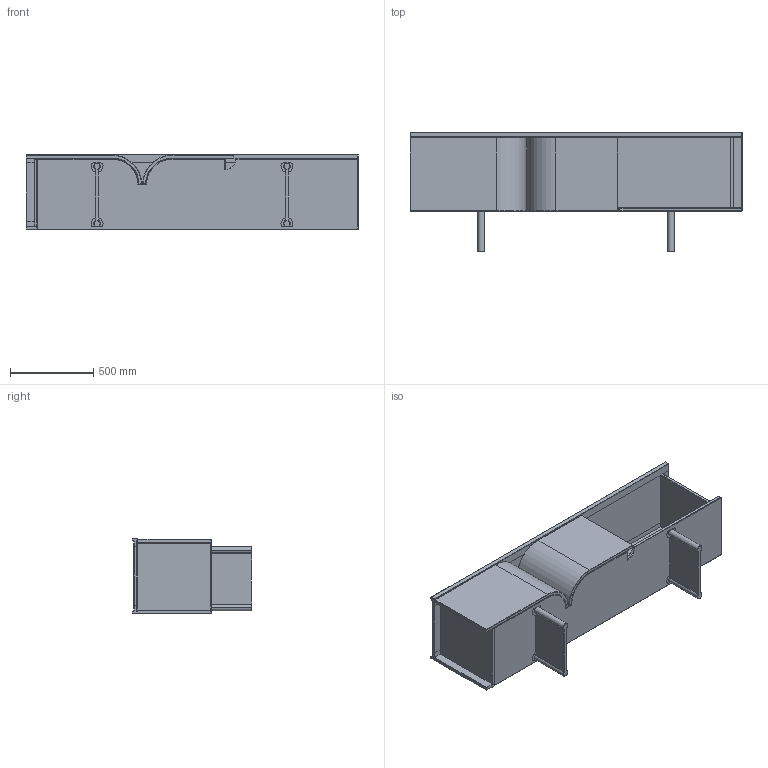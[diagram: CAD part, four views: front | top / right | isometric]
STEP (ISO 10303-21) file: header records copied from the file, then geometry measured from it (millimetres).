
FILE_DESCRIPTION (( 'STEP AP203' ), '1' );
FILE_NAME ('FLESSO SIDEBOARD 200.STEP', '2024-08-09T06:49:09', ( '' ), ( '' ), 'SwSTEP 2.0', 'SolidWorks 2024', '' );
FILE_SCHEMA (( 'CONFIG_CONTROL_DESIGN' ));
Length unit declared in the file: millimetre
Products named in the file (2): Group1^FLESSO SIDEBOARD 200; FLESSO SIDEBOARD 200
Assembly tree (1 placements, depth 2):
  FLESSO SIDEBOARD 200
    Group1^FLESSO SIDEBOARD 200
Bounding box: 2000 x 720 x 450 mm (x, y, z)
Volume: 80654550.3 mm3; surface area: 8214020.1 mm2
Topology: 3 solids, 3 shells, 396 faces, 929 edges, 502 vertices
Faces by surface type: cylinder 173, plane 111, sphere 59, torus 53
Entity records: 11312 total; most frequent: CARTESIAN_POINT 2168, DIRECTION 2074, ORIENTED_EDGE 1774, EDGE_CURVE 887, AXIS2_PLACEMENT_3D 821, VERTEX_POINT 499, VECTOR 432, LINE 432
